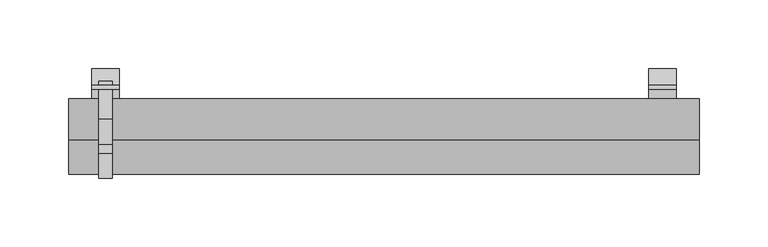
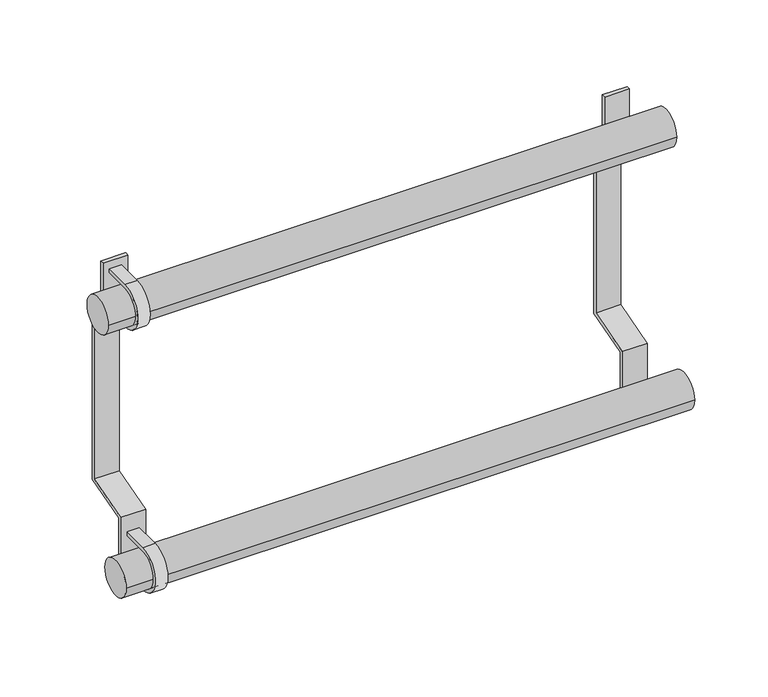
"""IFC4 building model written with IfcOpenShell, lengths in millimetres: valve geometry, PL AT_Manifold_FT-EV : 08 circuits."""

import ifcopenshell
import ifcopenshell.guid

model = None  # the IFC model being written
_history = None  # IfcOwnerHistory: only IFC2X3 demands one
_inside = {}  # id of a spatial element -> (the spatial element, [elements in it])
_under = {}  # id of a project, library or spatial element -> (it, [spatial elements below it])
_declared = {}  # id of a project -> (the project, [libraries it declares])
_typed = {}  # id of a type object -> (the type object, [elements of that type])
_made_of = {}  # id of a material, layer set ... -> (it, [elements and type objects made of it])


def new_model(schema):
    """Start an empty IFC model of exactly this schema.

    Asked for "IFC4X3", IfcOpenShell would pick the latest addendum, in which some entities
    have other attributes; the version numbers below select the first issue.
    IFC2X3 requires an IfcOwnerHistory on every rooted entity: one is made here for all.
    """
    global model, _history
    if schema == "IFC4X3":
        model = ifcopenshell.file(schema_version=(4, 3, 0, 0))
    else:
        model = ifcopenshell.file(schema=schema)
    _inside.clear()
    _under.clear()
    _declared.clear()
    _typed.clear()
    _made_of.clear()
    _history = None
    if model.schema == "IFC2X3":
        org = make("IfcOrganization", Name="unknown")
        user = make(
            "IfcPersonAndOrganization",
            ThePerson=make("IfcPerson", FamilyName="unknown"),
            TheOrganization=org,
        )
        app = make(
            "IfcApplication",
            ApplicationDeveloper=org,
            Version="unknown",
            ApplicationFullName="unknown",
            ApplicationIdentifier="unknown",
        )
        _history = make(
            "IfcOwnerHistory",
            OwningUser=user,
            OwningApplication=app,
            ChangeAction="ADDED",
            CreationDate=0,
        )
    return model


def make(cls, **values):
    """One entity of the class cls with the attributes given. An attribute that is None is left unset."""
    return model.create_entity(
        cls, **{name: value for name, value in values.items() if value is not None}
    )


def rooted(cls, **values):
    """An entity with a GlobalId (a new one), such as an element, a storey or a relation."""
    return make(cls, GlobalId=ifcopenshell.guid.new(), OwnerHistory=_history, **values)


def si_unit(unit_type, name, prefix=None):
    """IfcSIUnit, for example si_unit("LENGTHUNIT", "METRE", prefix="MILLI")."""
    return make("IfcSIUnit", UnitType=unit_type, Prefix=prefix, Name=name)


def assignment(units):
    """IfcUnitAssignment: the units of a project."""
    return None if units is None else make("IfcUnitAssignment", Units=units)


def point(xyz):
    """IfcCartesianPoint."""
    return None if xyz is None else make("IfcCartesianPoint", Coordinates=xyz)


def direction(xyz):
    """IfcDirection."""
    return None if xyz is None else make("IfcDirection", DirectionRatios=xyz)


def frame(location, z_axis=None, x_axis=None):
    """IfcAxis2Placement3D, a coordinate frame: its origin and axes. An axis left out is left unset."""
    return make(
        "IfcAxis2Placement3D",
        Location=point(location),
        Axis=direction(z_axis),
        RefDirection=direction(x_axis),
    )


def frame_2d(location, x_axis=None):
    """IfcAxis2Placement2D, a coordinate frame in the plane: its origin and x axis."""
    return make(
        "IfcAxis2Placement2D", Location=point(location), RefDirection=direction(x_axis)
    )


def origin():
    """The frame at (0, 0, 0) with its axes left unset."""
    return frame((0.0, 0.0, 0.0))


def origin_2d():
    """The frame at (0, 0) in the plane with its x axis left unset."""
    return frame_2d((0.0, 0.0))


def place(relative_to, where):
    """IfcLocalPlacement: puts the frame where relative to a parent placement (None: the world)."""
    return make(
        "IfcLocalPlacement", PlacementRelTo=relative_to, RelativePlacement=where
    )


def context(
    kind, dimensions, precision=None, world=None, true_north=None, identifier=None
):
    """IfcGeometricRepresentationContext, for example the 3D "Model" context."""
    return make(
        "IfcGeometricRepresentationContext",
        ContextIdentifier=identifier,
        ContextType=kind,
        CoordinateSpaceDimension=dimensions,
        Precision=precision,
        WorldCoordinateSystem=world,
        TrueNorth=true_north,
    )


def project(units=None, contexts=None):
    """IfcProject with its units and contexts."""
    return rooted(
        "IfcProject",
        Name="project",
        RepresentationContexts=contexts,
        UnitsInContext=assignment(units),
    )


def spatial(cls, under=None, at=None, **own):
    """A site, building, storey or space (cls), placed at a placement, below another one or the project."""
    s = rooted(cls, ObjectPlacement=at, **own)
    if under is not None:
        _under.setdefault(under.id(), (under, []))[1].append(s)
    return s


def polyline(points):
    """IfcPolyline through the points."""
    return make("IfcPolyline", Points=[point(p) for p in points])


def circle_curve(where, radius):
    """IfcCircle in the frame where."""
    return make("IfcCircle", Position=where, Radius=radius)


def trimmed(basis, trim1, trim2, sense, master):
    """IfcTrimmedCurve: the piece of a basis curve between two trims."""
    return make(
        "IfcTrimmedCurve",
        BasisCurve=basis,
        Trim1=trim1,
        Trim2=trim2,
        SenseAgreement=sense,
        MasterRepresentation=master,
    )


def segment(curve, same_sense, transition):
    """IfcCompositeCurveSegment."""
    return make(
        "IfcCompositeCurveSegment",
        Transition=transition,
        SameSense=same_sense,
        ParentCurve=curve,
    )


def composite_curve(segments, self_intersect=None):
    """IfcCompositeCurve: segments joined end to end."""
    return make("IfcCompositeCurve", Segments=segments, SelfIntersect=self_intersect)


def outline(outer, holes=None, kind="AREA"):
    """IfcArbitraryClosedProfileDef: a profile drawn as a closed curve; with holes, ...WithVoids."""
    if holes is None:
        return make("IfcArbitraryClosedProfileDef", ProfileType=kind, OuterCurve=outer)
    return make(
        "IfcArbitraryProfileDefWithVoids",
        ProfileType=kind,
        OuterCurve=outer,
        InnerCurves=holes,
    )


def extrude(swept, where, along, depth):
    """IfcExtrudedAreaSolid: the profile swept, set in the frame where, extruded along a direction by depth."""
    return make(
        "IfcExtrudedAreaSolid",
        SweptArea=swept,
        Position=where,
        ExtrudedDirection=direction(along),
        Depth=depth,
    )


def shape(context_of_items, identifier, shape_type, items):
    """IfcShapeRepresentation: the items that make up one representation, for example the "Body"."""
    return make(
        "IfcShapeRepresentation",
        ContextOfItems=context_of_items,
        RepresentationIdentifier=identifier,
        RepresentationType=shape_type,
        Items=items,
    )


def source(mapping_origin, context_of_items, identifier, shape_type, items):
    """IfcRepresentationMap: a shape defined once, which mapped items show again and again."""
    return make(
        "IfcRepresentationMap",
        MappingOrigin=mapping_origin,
        MappedRepresentation=shape(context_of_items, identifier, shape_type, items),
    )


def transform(
    local_origin,
    x_axis=None,
    y_axis=None,
    z_axis=None,
    scale=None,
    scale2=None,
    scale3=None,
    uniform=True,
):
    """IfcCartesianTransformationOperator3D, or its non-uniform kind. x_axis, y_axis, z_axis: its Axis1, 2, 3."""
    if uniform:
        return make(
            "IfcCartesianTransformationOperator3D",
            Axis1=direction(x_axis),
            Axis2=direction(y_axis),
            LocalOrigin=point(local_origin),
            Scale=scale,
            Axis3=direction(z_axis),
        )
    return make(
        "IfcCartesianTransformationOperator3DnonUniform",
        Axis1=direction(x_axis),
        Axis2=direction(y_axis),
        LocalOrigin=point(local_origin),
        Scale=scale,
        Axis3=direction(z_axis),
        Scale2=scale2,
        Scale3=scale3,
    )


def mapped(mapping_source, mapping_target):
    """IfcMappedItem: shows the shape of a source again, moved by a transform."""
    return make(
        "IfcMappedItem", MappingSource=mapping_source, MappingTarget=mapping_target
    )


def made_of(thing, what):
    """Note that an element or type object is made of a material, layer set ...; save() writes the relation."""
    if what is not None:
        _made_of.setdefault(what.id(), (what, []))[1].append(thing)
    return thing


def element(
    cls,
    number,
    at=None,
    inside=None,
    cuts=None,
    type_object=None,
    material=None,
    context=None,
    identifier="Body",
    shape_type=None,
    held_by="IfcProductDefinitionShape",
    body=None,
    shapes=None,
    **own,
):
    """One element of the class cls, such as IfcWall. Its Tag is "e" and its number.

    at: its placement. inside: the storey or other place that contains it. cuts: it is an
    opening in that element (IfcRelVoidsElement). A single representation is given by context,
    identifier, shape_type and body (its items); several are given by shapes. held_by: the class
    of the entity that holds the representations. save() writes the other relations.
    """
    e = rooted(cls, Tag="e%d" % number, ObjectPlacement=at, **own)
    if body is not None:
        shapes = [shape(context, identifier, shape_type, body)]
    if shapes is not None:
        e.Representation = make(held_by, Representations=shapes)
    if inside is not None:
        _inside.setdefault(inside.id(), (inside, []))[1].append(e)
    if cuts is not None:
        rooted(
            "IfcRelVoidsElement", RelatingBuildingElement=cuts, RelatedOpeningElement=e
        )
    if type_object is not None:
        _typed.setdefault(type_object.id(), (type_object, []))[1].append(e)
    return made_of(e, material)


def aggregate(whole, parts):
    """IfcRelAggregates: a whole, such as a stair, and the parts it consists of."""
    return rooted("IfcRelAggregates", RelatingObject=whole, RelatedObjects=parts)


def save(model, path):
    """Write the relations noted so far, then the file.

    IfcRelAggregates (storeys below a building ...), IfcRelContainedInSpatialStructure (elements
    in a storey), IfcRelDefinesByType, IfcRelAssociatesMaterial and IfcRelDeclares: one each for
    every whole, place, type object, material and project.
    """
    for whole, parts in _under.values():
        aggregate(whole, parts)
    for where, things in _inside.values():
        rooted(
            "IfcRelContainedInSpatialStructure",
            RelatedElements=things,
            RelatingStructure=where,
        )
    for kind, things in _typed.values():
        rooted("IfcRelDefinesByType", RelatedObjects=things, RelatingType=kind)
    for what, things in _made_of.values():
        rooted("IfcRelAssociatesMaterial", RelatedObjects=things, RelatingMaterial=what)
    for by, libraries in _declared.values():
        rooted("IfcRelDeclares", RelatingContext=by, RelatedDefinitions=libraries)
    model.write(path)


def valve_daf88f27(model_context):
    return source(origin(), model_context, "Body", "SweptSolid", [
        extrude(outline(polyline([(62.0, 182.8840762), (62.0, 40.6095793), (25.0, 30.0), (25.0, -30.0), (22.0, -30.0), (22.0, 32.2606622), (59.0, 42.8702414), (59.0, 180.3667773), (47.0, 182.4827011), (47.0, 235.0), (50.0, 235.0), (50.0, 185.0), (62.0, 182.8840762)])), frame((406.0, 0.0, 0.0), z_axis=(1.0, 0.0, 0.0), x_axis=(0.0, 1.0, 0.0)), (0.0, 0.0, 1.0), 20.0),
        extrude(outline(composite_curve([segment(trimmed(circle_curve(origin_2d(), 15.0), [point((0.0, 15.0))], [point((0.0, -15.0))], True, "CARTESIAN"), True, "CONTINUOUS"), segment(polyline([(0.0, -15.0), (27.6751284, -15.0), (27.6751284, -18.0), (0.0, -18.0)]), True, "CONTINUOUS"), segment(trimmed(circle_curve(origin_2d(), 18.0), [point((0.0, -18.0))], [point((0.0, 18.0))], False, "CARTESIAN"), True, "CONTINUOUS"), segment(polyline([(0.0, 18.0), (27.6751284, 18.0), (27.6751284, 15.0), (0.0, 15.0)]), True, "CONTINUOUS")], self_intersect=False)), frame((5.0, 0.0, 0.0), z_axis=(1.0, 0.0, 0.0), x_axis=(0.0, 1.0, 0.0)), (0.0, 0.0, 1.0), 10.0),
        extrude(outline(composite_curve([segment(trimmed(circle_curve(frame_2d((25.0, 210.0)), 15.0), [point((25.0, 225.0))], [point((25.0, 195.0))], True, "CARTESIAN"), True, "CONTINUOUS"), segment(polyline([(25.0, 195.0), (52.6751284, 195.0), (52.6751284, 192.0), (25.0, 192.0)]), True, "CONTINUOUS"), segment(trimmed(circle_curve(frame_2d((25.0, 210.0)), 18.0), [point((25.0, 192.0))], [point((25.0, 228.0))], False, "CARTESIAN"), True, "CONTINUOUS"), segment(polyline([(25.0, 228.0), (52.6751284, 228.0), (52.6751284, 225.0), (25.0, 225.0)]), True, "CONTINUOUS")], self_intersect=False)), frame((5.0, 0.0, 0.0), z_axis=(1.0, 0.0, 0.0), x_axis=(0.0, 1.0, 0.0)), (0.0, 0.0, 1.0), 10.0),
        extrude(outline(polyline([(62.0, 182.8840762), (62.0, 40.6095793), (25.0, 30.0), (25.0, -30.0), (22.0, -30.0), (22.0, 32.2606622), (59.0, 42.8702414), (59.0, 180.3667773), (47.0, 182.4827011), (47.0, 235.0), (50.0, 235.0), (50.0, 185.0), (62.0, 182.8840762)])), frame((0.0, 0.0, 0.0), z_axis=(1.0, 0.0, 0.0), x_axis=(0.0, 1.0, 0.0)), (0.0, 0.0, 1.0), 20.0),
        extrude(outline(composite_curve([segment(trimmed(circle_curve(origin_2d(), 15.0), [point((15.0, 0.0))], [point((-15.0, 0.0))], False, "CARTESIAN"), True, "CONTINUOUS"), segment(trimmed(circle_curve(origin_2d(), 15.0), [point((-15.0, 0.0))], [point((15.0, 0.0))], False, "CARTESIAN"), True, "CONTINUOUS")], self_intersect=False)), frame((-17.0, 0.0, 0.0), z_axis=(1.0, 0.0, 0.0), x_axis=(0.0, 1.0, 0.0)), (0.0, 0.0, 1.0), 460.0),
        extrude(outline(composite_curve([segment(trimmed(circle_curve(frame_2d((25.0, 210.0)), 15.0), [point((40.0, 210.0))], [point((10.0, 210.0))], False, "CARTESIAN"), True, "CONTINUOUS"), segment(trimmed(circle_curve(frame_2d((25.0, 210.0)), 15.0), [point((10.0, 210.0))], [point((40.0, 210.0))], False, "CARTESIAN"), True, "CONTINUOUS")], self_intersect=False)), frame((-17.0, 0.0, 0.0), z_axis=(1.0, 0.0, 0.0), x_axis=(0.0, 1.0, 0.0)), (0.0, 0.0, 1.0), 460.0),
    ])


if __name__ == "__main__":
    model = new_model("IFC4")
    model_context = context("Model", 3, world=origin())
    ifc_project = project(units=[si_unit("LENGTHUNIT", "METRE", prefix="MILLI")], contexts=[model_context])
    site = spatial("IfcSite", under=ifc_project)
    building = spatial("IfcBuilding", under=site)
    placement = place(None, origin())
    valve_shape = valve_daf88f27(model_context)
    element("IfcValve", 1, ObjectType="PL AT_Manifold_FT-EV : 08 circuits", at=placement, inside=building, context=model_context, shape_type="MappedRepresentation", body=[
        mapped(valve_shape, transform((0.0, 0.0, 0.0), x_axis=(1.0, 0.0, 0.0), y_axis=(0.0, 1.0, 0.0), z_axis=(0.0, 0.0, 1.0))),
    ])
    save(model, "model.ifc")
